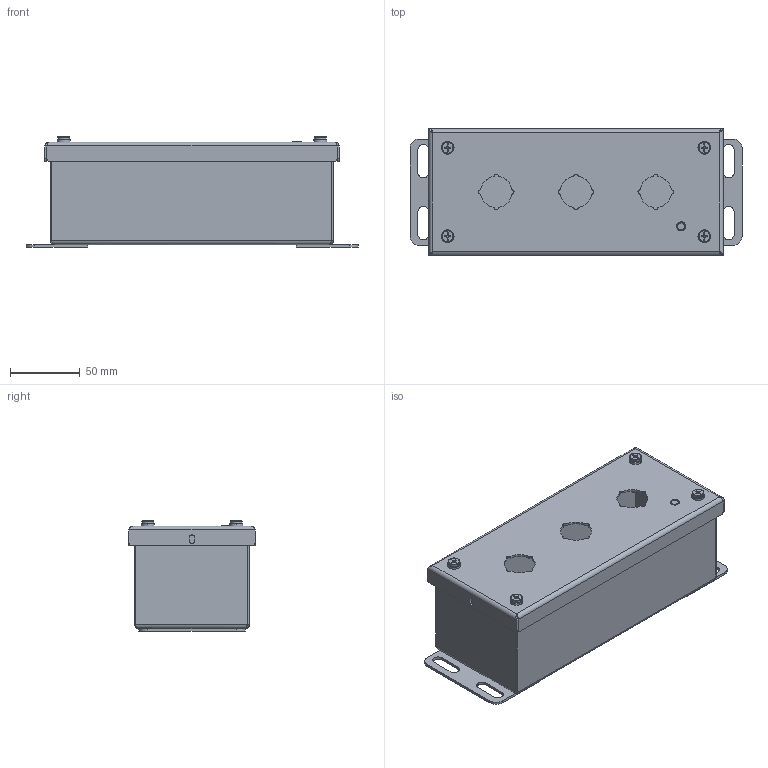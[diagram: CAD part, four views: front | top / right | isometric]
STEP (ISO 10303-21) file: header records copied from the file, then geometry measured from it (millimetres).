
FILE_DESCRIPTION((''),'2;1');
FILE_NAME('MODEL-335_ASM','2025-09-12T11:39:38',('richards'),('SAGINAW CONTROL & ENGINEERING'),'CREO PARAMETRIC BY PTC INC, 2021284','CREO PARAMETRIC BY PTC INC, 2021284','');
FILE_SCHEMA(('AUTOMOTIVE_DESIGN { 1 0 10303 214 1 1 1 1 }'));
Length unit declared in the file: inch
Products named in the file (10): MODEL-335-BDY; MODEL-335-DR; 100063; 102145; 101966; 100009; 100983; 102534; MODEL-335-GSKT; MODEL-335_ASM
Assembly tree (16 placements, depth 2):
  MODEL-335_ASM
    MODEL-335-BDY
    MODEL-335-DR
    100063
    102145  x2
    101966
    100009
    100983  x4
    102534  x4
    MODEL-335-GSKT
Bounding box: 238.12 x 90.49 x 79.34 mm (x, y, z)
Volume: 150927.1 mm3; surface area: 198984.8 mm2
Topology: 19 solids, 19 shells, 758 faces, 1887 edges, 1114 vertices
Faces by surface type: plane 278, cylinder 272, bspline 100, torus 80, cone 28
Entity records: 22123 total; most frequent: CARTESIAN_POINT 5961, DIRECTION 2307, ORIENTED_EDGE 2222, EDGE_CURVE 1111, PRESENTATION_STYLE_ASSIGNMENT 1023, STYLED_ITEM 1023, CURVE_STYLE 947, AXIS2_PLACEMENT_3D 841
